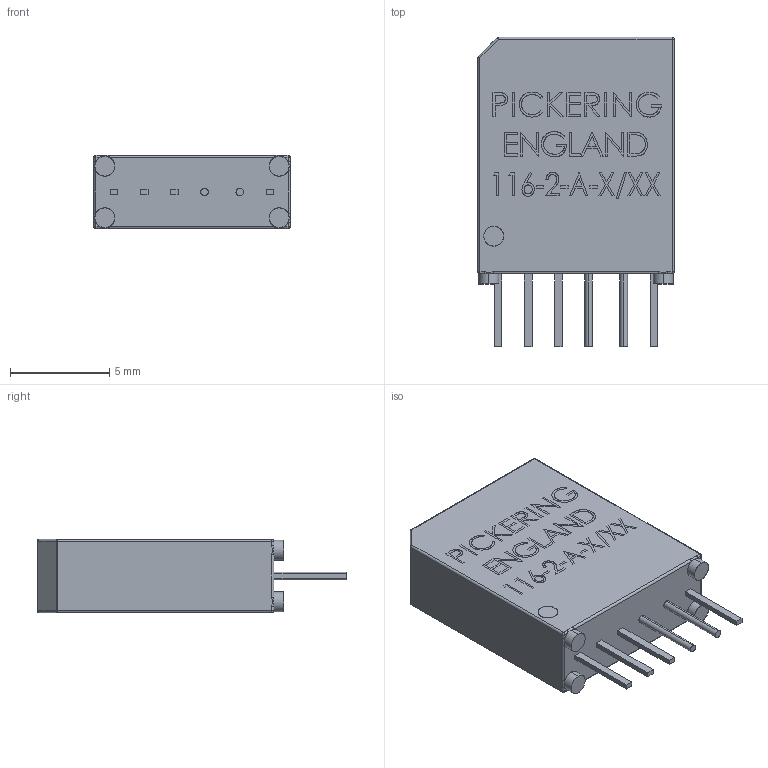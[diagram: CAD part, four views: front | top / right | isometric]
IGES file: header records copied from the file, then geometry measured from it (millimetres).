
Start section: SolidWorks IGES file using analytic representation for surfaces
Global section: file name: C:\Users\alex.leming\Desktop\116-2-A.IGS; native system: SolidWorks 2010; preprocessor: SolidWorks 2010; author: alex.leming; date: 110607.114425; units: millimetre
Bounding box: 9.9 x 15.62 x 3.7 mm (x, y, z)
Surface area: 424.6 mm2 (no closed solid volume)
Topology: 0 solids, 0 shells, 396 faces, 3008 edges, 2998 vertices
Faces by surface type: bspline 349, revolution 47
